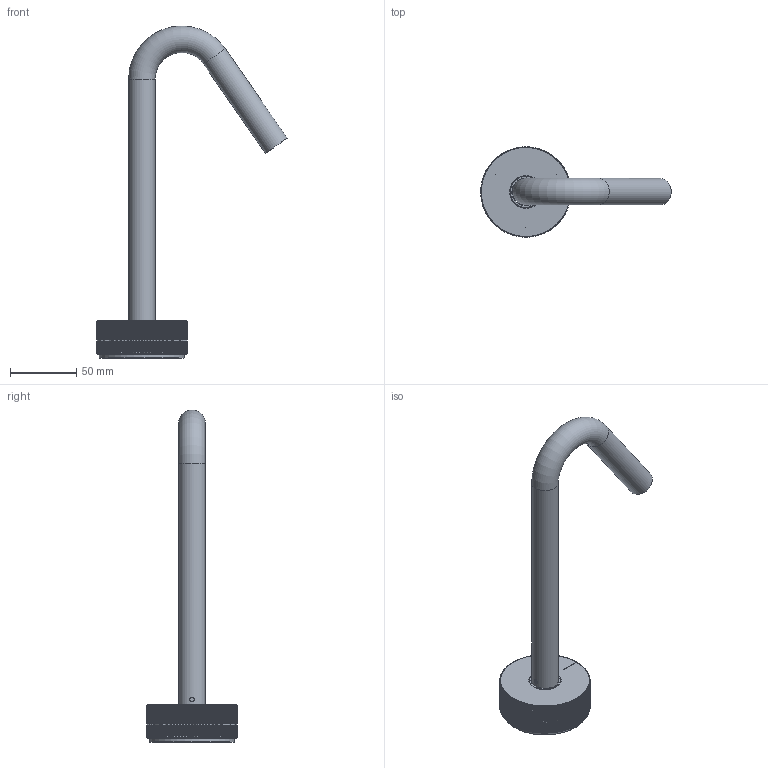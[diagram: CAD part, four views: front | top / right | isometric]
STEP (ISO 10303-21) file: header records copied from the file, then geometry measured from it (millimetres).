
FILE_DESCRIPTION(/* description */ ('Unknown'),/* implementation_level */ '2;1');
FILE_NAME(/* name */ 'RN001 R1',/* time_stamp */ '2023-02-11T12:15:31+01:00',/* author */ ('Unknown'),/* organization */ ('Unknown'),/* preprocessor_version */ 'ST-DEVELOPER v18.102',/* originating_system */ 'Solid Edge',/* authorisation */ 'Unknown');
FILE_SCHEMA (('AUTOMOTIVE_DESIGN {1 0 10303 214 3 1 1}'));
Length unit declared in the file: millimetre
Products named in the file (9): RN001 R1; RN001-09; RN001-08; RN001-04 R1; RN001-12; RN001-001_oa_0; RN001-03; 44.3256.450_oa_1; CB003-002-1
Assembly tree (8 placements, depth 3):
  RN001 R1
    RN001-09
    RN001-08
    RN001-04 R1
    RN001-12
    RN001-001_oa_0
      RN001-03
    44.3256.450_oa_1
      CB003-002-1
Bounding box: 143.5 x 68 x 250 mm (x, y, z)
Volume: 77166.9 mm3; surface area: 64863.4 mm2
Topology: 6 solids, 6 shells, 1151 faces, 2586 edges, 1474 vertices
Faces by surface type: plane 499, cone 392, cylinder 225, torus 18, bspline 17
Full cylindrical faces by diameter (mm): 2.459 x6, 3.242 x1, 5 x3, 12.196 x1, 13.464 x1, 14.577 x1, 15 x2, 15.033 x1, 15.218 x1, 15.229 x1, 15.417 x2, 16 x1, 16.3 x1, 16.5 x2, 16.75 x1, 18 x1, 20 x2, 20.5 x1, 23.8 x1, 24 x1, 28 x1, 30 x1, 34.3 x1, 40.5 x1, 46 x1, 51 x1, 58 x1, 64 x1, 65 x1
Entity records: 39668 total; most frequent: CARTESIAN_POINT 7771, ORIENTED_EDGE 4944, DIRECTION 4904, EDGE_CURVE 2472, AXIS2_PLACEMENT_3D 2054, VERTEX_POINT 1447, FACE_BOUND 1275, EDGE_LOOP 1272
